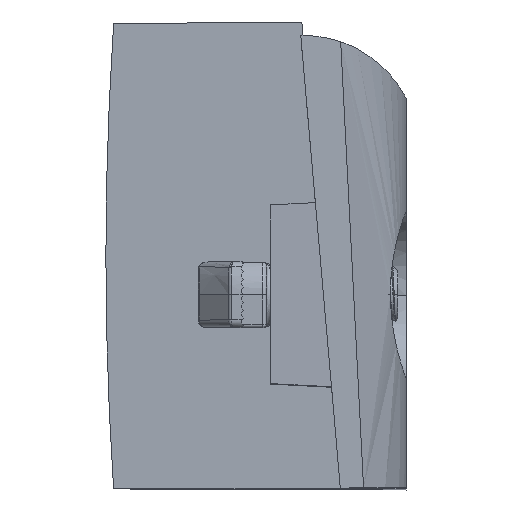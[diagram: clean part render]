
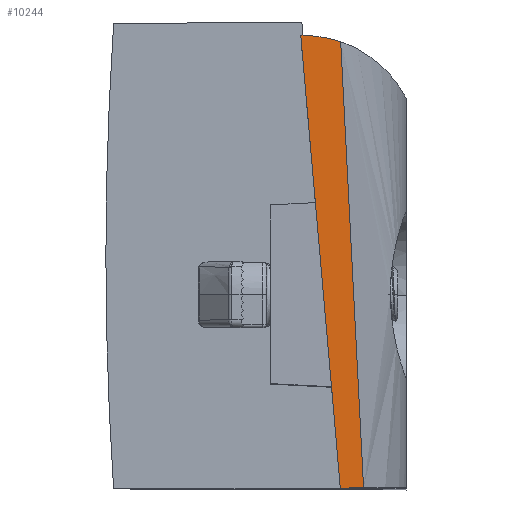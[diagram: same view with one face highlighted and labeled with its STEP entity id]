
A CAD part, top view. The second image highlights one B-rep face of the part: STEP entity #10244.
In plain terms, the highlighted planar face has unit normal (0.017, 0.002, 1) as drawn and (-0.017, 0.002, -1) by its records, which use the part's own axes.
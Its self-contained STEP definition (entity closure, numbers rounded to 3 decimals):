
#57 = CARTESIAN_POINT ( 'NONE',  ( -29.772, 2.605, -35. ) ) ;
#299 = CARTESIAN_POINT ( 'NONE',  ( -28.854, 13.1, -35. ) ) ;
#614 = CARTESIAN_POINT ( 'NONE',  ( -31.504, 29.061, -34.93 ) ) ;
#669 = CARTESIAN_POINT ( 'NONE',  ( -31.965, 20.011, -34.936 ) ) ;
#734 = DIRECTION ( 'NONE',  ( -1., 0.017, 0.017 ) ) ;
#761 = EDGE_CURVE ( 'NONE', #8912, #1515, #9555, .T. ) ;
#975 = CARTESIAN_POINT ( 'NONE',  ( -30.044, 57.691, -34.911 ) ) ;
#1515 = VERTEX_POINT ( 'NONE', #7588 ) ;
#1523 = DIRECTION ( 'NONE',  ( -0.017, 0.002, -1. ) ) ;
#1526 = CARTESIAN_POINT ( 'NONE',  ( -31.476, 29.627, -34.929 ) ) ;
#1589 = CARTESIAN_POINT ( 'NONE',  ( -29.772, 2.605, -35. ) ) ;
#1656 = CARTESIAN_POINT ( 'NONE',  ( -30.044, 57.691, -34.911 ) ) ;
#1891 = LINE ( 'NONE', #57, #7469 ) ;
#1962 = DIRECTION ( 'NONE',  ( 0.087, 0.996, 0. ) ) ;
#2435 = ORIENTED_EDGE ( 'NONE', *, *, #761, .T. ) ;
#2489 = CARTESIAN_POINT ( 'NONE',  ( -30.372, 51.291, -34.916 ) ) ;
#2702 = ORIENTED_EDGE ( 'NONE', *, *, #10875, .T. ) ;
#3091 = ORIENTED_EDGE ( 'NONE', *, *, #4782, .F. ) ;
#3219 = CARTESIAN_POINT ( 'NONE',  ( -29.771, 58.5, -34.915 ) ) ;
#3794 = CARTESIAN_POINT ( 'NONE',  ( -31.513, 28.895, -34.93 ) ) ;
#3877 = CARTESIAN_POINT ( 'NONE',  ( -24.882, 58.5, -35. ) ) ;
#3887 = CARTESIAN_POINT ( 'NONE',  ( -25.183, 58.5, -34.995 ) ) ;
#3931 = VERTEX_POINT ( 'NONE', #8478 ) ;
#4142 = CARTESIAN_POINT ( 'NONE',  ( -25.183, 58.5, -34.995 ) ) ;
#4249 = CARTESIAN_POINT ( 'NONE',  ( -30.044, 57.691, -34.911 ) ) ;
#4782 = EDGE_CURVE ( 'NONE', #8912, #11943, #1891, .T. ) ;
#4818 = CARTESIAN_POINT ( 'NONE',  ( -31.509, 28.966, -34.93 ) ) ;
#4936 = CARTESIAN_POINT ( 'NONE',  ( -32.459, 10.405, -34.941 ) ) ;
#5008 = CARTESIAN_POINT ( 'NONE',  ( -31.513, 28.885, -34.93 ) ) ;
#5100 = CARTESIAN_POINT ( 'NONE',  ( -26.841, 58.5, -34.966 ) ) ;
#5457 = VECTOR ( 'NONE', #8025, 1000. ) ;
#5531 = B_SPLINE_CURVE_WITH_KNOTS ( 'NONE', 3,
 ( #1656, #6854, #2489, #9921, #6790, #13043, #10819, #5841, #9989, #1526, #12907, #614, #4818, #8757, #3794, #5008, #12345, #9149, #669, #4936, #13232 ),
 .UNSPECIFIED., .F., .F.,
 ( 4, 2, 2, 1, 1, 1, 1, 1, 1, 1, 1, 1, 2, 2, 4 ),
 ( 0., 0.25, 0.375, 0.438, 0.469, 0.484, 0.492, 0.496, 0.498, 0.499, 0.5, 0.5, 0.5, 0.5, 1. ),
 .UNSPECIFIED. ) ;
#5573 = AXIS2_PLACEMENT_3D ( 'NONE', #1589, #1523, #11705 ) ;
#5695 = CARTESIAN_POINT ( 'NONE',  ( -26.772, 36.9, -35. ) ) ;
#5841 = CARTESIAN_POINT ( 'NONE',  ( -31.362, 31.849, -34.928 ) ) ;
#5959 = LINE ( 'NONE', #10102, #6218 ) ;
#6156 = EDGE_CURVE ( 'NONE', #3931, #11943, #12246, .T. ) ;
#6218 = VECTOR ( 'NONE', #734, 1000. ) ;
#6288 = DIRECTION ( 'NONE',  ( -0.087, -0.996, 0. ) ) ;
#6367 = ORIENTED_EDGE ( 'NONE', *, *, #6156, .T. ) ;
#6790 = CARTESIAN_POINT ( 'NONE',  ( -30.875, 41.417, -34.922 ) ) ;
#6854 = CARTESIAN_POINT ( 'NONE',  ( -30.181, 55.025, -34.913 ) ) ;
#6983 =( BOUNDED_CURVE ( )  B_SPLINE_CURVE ( 3, ( #975, #12432, #5100, #4142 ),
 .UNSPECIFIED., .F., .T. ) 
 B_SPLINE_CURVE_WITH_KNOTS ( ( 4, 4 ),
 ( 4.295, 4.625 ),
 .UNSPECIFIED. ) 
 CURVE ( )  GEOMETRIC_REPRESENTATION_ITEM ( )  RATIONAL_B_SPLINE_CURVE ( ( 1., 0.991, 0.991, 1. ) ) 
 REPRESENTATION_ITEM ( '' )  );
#7172 = ORIENTED_EDGE ( 'NONE', *, *, #13464, .F. ) ;
#7469 = VECTOR ( 'NONE', #1962, 1000. ) ;
#7588 = CARTESIAN_POINT ( 'NONE',  ( -30., 0., -35. ) ) ;
#7824 = ORIENTED_EDGE ( 'NONE', *, *, #11229, .T. ) ;
#8025 = DIRECTION ( 'NONE',  ( -0.087, -0.996, 0. ) ) ;
#8119 = VERTEX_POINT ( 'NONE', #4249 ) ;
#8399 = CARTESIAN_POINT ( 'NONE',  ( -28.854, 13.1, -35. ) ) ;
#8478 = CARTESIAN_POINT ( 'NONE',  ( -24.882, 58.5, -35. ) ) ;
#8612 = VECTOR ( 'NONE', #9291, 1000. ) ;
#8733 = EDGE_LOOP ( 'NONE', ( #2702, #7172, #7824, #9702, #6367, #3091, #2435 ) ) ;
#8757 = CARTESIAN_POINT ( 'NONE',  ( -31.512, 28.919, -34.93 ) ) ;
#8912 = VERTEX_POINT ( 'NONE', #299 ) ;
#9149 = CARTESIAN_POINT ( 'NONE',  ( -31.514, 28.873, -34.93 ) ) ;
#9291 = DIRECTION ( 'NONE',  ( 1., 0., -0.017 ) ) ;
#9555 = LINE ( 'NONE', #8399, #13304 ) ;
#9675 = CARTESIAN_POINT ( 'NONE',  ( -32.997, 0.052, -34.948 ) ) ;
#9702 = ORIENTED_EDGE ( 'NONE', *, *, #10981, .T. ) ;
#9785 = FACE_OUTER_BOUND ( 'NONE', #8733, .T. ) ;
#9921 = CARTESIAN_POINT ( 'NONE',  ( -30.74, 44.086, -34.92 ) ) ;
#9989 = CARTESIAN_POINT ( 'NONE',  ( -31.437, 30.375, -34.929 ) ) ;
#10102 = CARTESIAN_POINT ( 'NONE',  ( -29.818, -0.003, -35.003 ) ) ;
#10244 = ADVANCED_FACE ( 'NONE', ( #9785 ), #11770, .T. ) ;
#10819 = CARTESIAN_POINT ( 'NONE',  ( -31.217, 34.711, -34.926 ) ) ;
#10875 = EDGE_CURVE ( 'NONE', #1515, #12354, #5959, .T. ) ;
#10981 = EDGE_CURVE ( 'NONE', #11139, #3931, #12550, .T. ) ;
#11139 = VERTEX_POINT ( 'NONE', #3887 ) ;
#11229 = EDGE_CURVE ( 'NONE', #8119, #11139, #6983, .T. ) ;
#11705 = DIRECTION ( 'NONE',  ( -1., 0., 0.017 ) ) ;
#11770 = PLANE ( 'NONE',  #5573 ) ;
#11943 = VERTEX_POINT ( 'NONE', #5695 ) ;
#12246 = LINE ( 'NONE', #3877, #5457 ) ;
#12345 = CARTESIAN_POINT ( 'NONE',  ( -31.514, 28.878, -34.93 ) ) ;
#12354 = VERTEX_POINT ( 'NONE', #9675 ) ;
#12432 = CARTESIAN_POINT ( 'NONE',  ( -28.476, 58.228, -34.938 ) ) ;
#12550 = LINE ( 'NONE', #3219, #8612 ) ;
#12907 = CARTESIAN_POINT ( 'NONE',  ( -31.495, 29.25, -34.929 ) ) ;
#13043 = CARTESIAN_POINT ( 'NONE',  ( -31.1, 37.013, -34.924 ) ) ;
#13232 = CARTESIAN_POINT ( 'NONE',  ( -32.997, 0.052, -34.948 ) ) ;
#13304 = VECTOR ( 'NONE', #6288, 1000. ) ;
#13464 = EDGE_CURVE ( 'NONE', #8119, #12354, #5531, .T. ) ;
